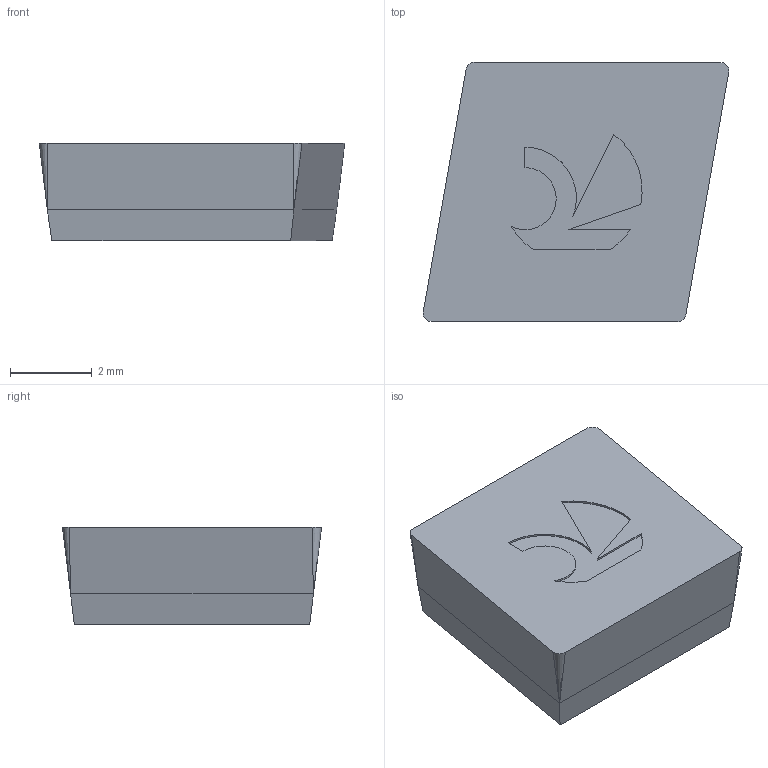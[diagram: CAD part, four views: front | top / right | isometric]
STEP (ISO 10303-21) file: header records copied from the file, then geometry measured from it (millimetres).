
FILE_DESCRIPTION(('no description'),'unknown implementation level');
FILE_NAME('solidaIuk_VojNy_ZpZ_YT9NMA_9IvCg_1.STP',' ',('CIMSOURCE GmbH'),('CADClick - KiM GmbH - www.kimweb.de'),'unknown preprocess','ACIS','unknown authorization');
FILE_SCHEMA(('automotive_design'));
Length unit declared in the file: millimetre
Products named in the file (1): CUT
Bounding box: 7.49 x 6.35 x 2.38 mm (x, y, z)
Volume: 88.5 mm3; surface area: 134.1 mm2
Topology: 1 solids, 1 shells, 26 faces, 65 edges, 38 vertices
Faces by surface type: plane 16, cylinder 6, cone 4
Entity records: 1470 total; most frequent: DIRECTION 133, CARTESIAN_POINT 127, STYLED_ITEM 126, PRESENTATION_STYLE_ASSIGNMENT 126, COLOUR_RGB 126, ORIENTED_EDGE 122, EDGE_CURVE 61, CURVE_STYLE 61
